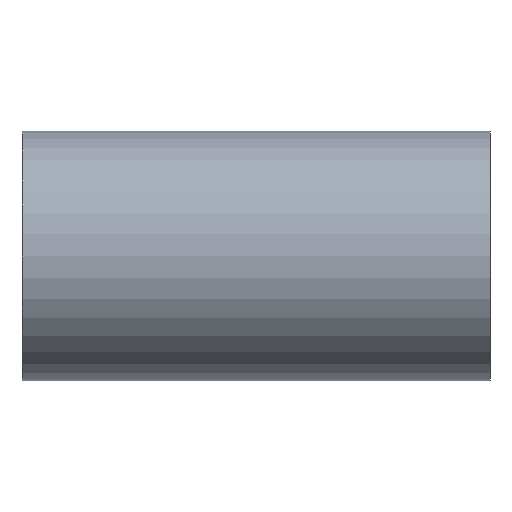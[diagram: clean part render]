
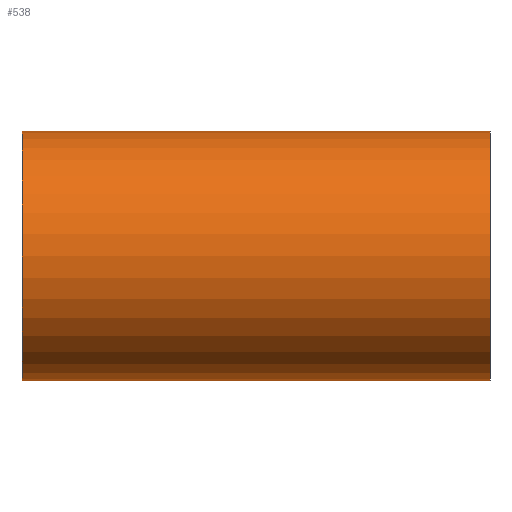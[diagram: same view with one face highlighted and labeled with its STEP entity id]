
A CAD part, front view. The second image highlights one B-rep face of the part: STEP entity #538.
In plain terms, the highlighted cylindrical face has radius 76.2 mm (diameter 152.4 mm), a partial arc.
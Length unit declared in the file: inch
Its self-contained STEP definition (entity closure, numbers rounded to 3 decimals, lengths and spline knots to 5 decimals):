
#20 = DIRECTION ( 'NONE',  ( 0., 0., -1. ) ) ;
#21 = EDGE_LOOP ( 'NONE', ( #134, #274, #343, #30 ) ) ;
#24 = DIRECTION ( 'NONE',  ( 1., 0., 0. ) ) ;
#29 = CARTESIAN_POINT ( 'NONE',  ( 5.625, 0., 0. ) ) ;
#30 = ORIENTED_EDGE ( 'NONE', *, *, #156, .T. ) ;
#34 = CARTESIAN_POINT ( 'NONE',  ( -5.625, 0., 3. ) ) ;
#44 = VERTEX_POINT ( 'NONE', #34 ) ;
#46 = CARTESIAN_POINT ( 'NONE',  ( -5.625, 0., 0. ) ) ;
#54 = LINE ( 'NONE', #259, #621 ) ;
#87 = VERTEX_POINT ( 'NONE', #192 ) ;
#100 = AXIS2_PLACEMENT_3D ( 'NONE', #46, #102, #144 ) ;
#102 = DIRECTION ( 'NONE',  ( 1., 0., 0. ) ) ;
#129 = DIRECTION ( 'NONE',  ( 0., 0., 1. ) ) ;
#134 = ORIENTED_EDGE ( 'NONE', *, *, #233, .F. ) ;
#144 = DIRECTION ( 'NONE',  ( 0., 0., -1. ) ) ;
#146 = CYLINDRICAL_SURFACE ( 'NONE', #377, 3. ) ;
#156 = EDGE_CURVE ( 'NONE', #44, #87, #196, .T. ) ;
#158 = FACE_OUTER_BOUND ( 'NONE', #21, .T. ) ;
#179 = EDGE_CURVE ( 'NONE', #567, #44, #183, .T. ) ;
#183 = LINE ( 'NONE', #299, #441 ) ;
#190 = DIRECTION ( 'NONE',  ( -1., 0., 0. ) ) ;
#192 = CARTESIAN_POINT ( 'NONE',  ( -5.625, 0., -3. ) ) ;
#196 = CIRCLE ( 'NONE', #100, 3. ) ;
#213 = CARTESIAN_POINT ( 'NONE',  ( 5.625, 0., -3. ) ) ;
#220 = CARTESIAN_POINT ( 'NONE',  ( 5.625, 0., 0. ) ) ;
#233 = EDGE_CURVE ( 'NONE', #249, #87, #54, .T. ) ;
#249 = VERTEX_POINT ( 'NONE', #213 ) ;
#259 = CARTESIAN_POINT ( 'NONE',  ( 5.625, 0., -3. ) ) ;
#274 = ORIENTED_EDGE ( 'NONE', *, *, #363, .F. ) ;
#299 = CARTESIAN_POINT ( 'NONE',  ( 5.625, 0., 3. ) ) ;
#320 = CARTESIAN_POINT ( 'NONE',  ( 5.625, 0., 3. ) ) ;
#343 = ORIENTED_EDGE ( 'NONE', *, *, #179, .T. ) ;
#363 = EDGE_CURVE ( 'NONE', #567, #249, #472, .T. ) ;
#377 = AXIS2_PLACEMENT_3D ( 'NONE', #220, #468, #129 ) ;
#441 = VECTOR ( 'NONE', #190, 39.37008 ) ;
#468 = DIRECTION ( 'NONE',  ( -1., 0., 0. ) ) ;
#472 = CIRCLE ( 'NONE', #513, 3. ) ;
#513 = AXIS2_PLACEMENT_3D ( 'NONE', #29, #24, #20 ) ;
#538 = ADVANCED_FACE ( 'NONE', ( #158 ), #146, .T. ) ;
#567 = VERTEX_POINT ( 'NONE', #320 ) ;
#621 = VECTOR ( 'NONE', #630, 39.37008 ) ;
#630 = DIRECTION ( 'NONE',  ( -1., 0., 0. ) ) ;
